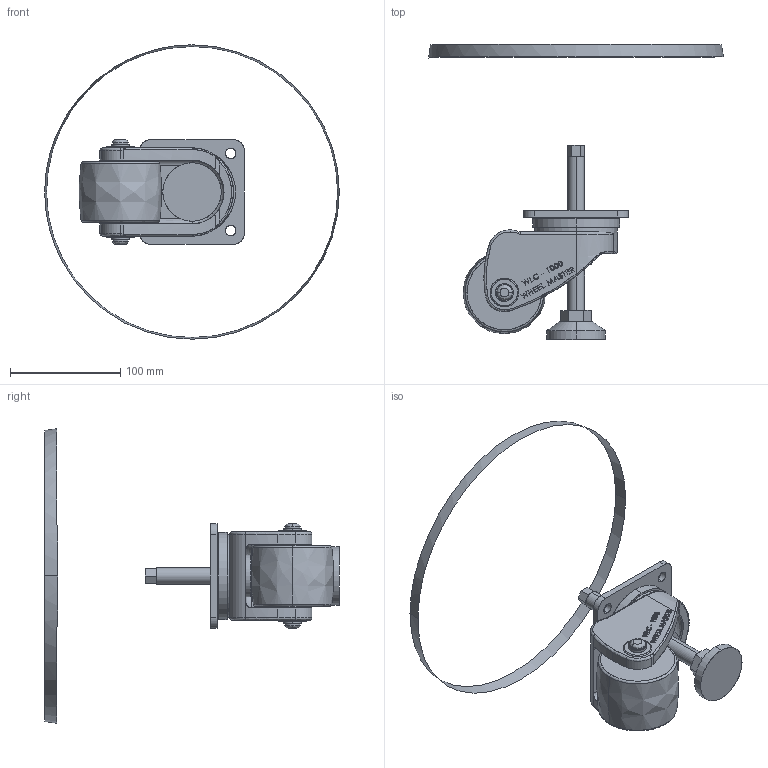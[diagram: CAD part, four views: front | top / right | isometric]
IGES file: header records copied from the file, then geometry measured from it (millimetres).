
Start section: SolidWorks IGES file using analytic representation for surfaces
Bounding box: 267.25 x 267.45 x 267.16 mm (x, y, z)
Surface area: 128464.5 mm2 (no closed solid volume)
Topology: 0 solids, 0 shells, 611 faces, 9185 edges, 9185 vertices
Faces by surface type: bspline 500, revolution 111
